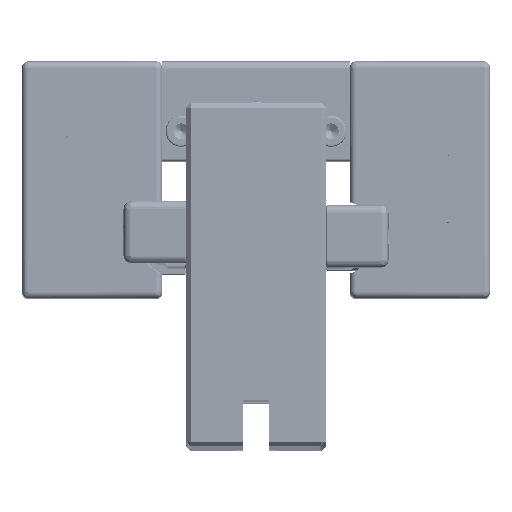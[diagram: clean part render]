
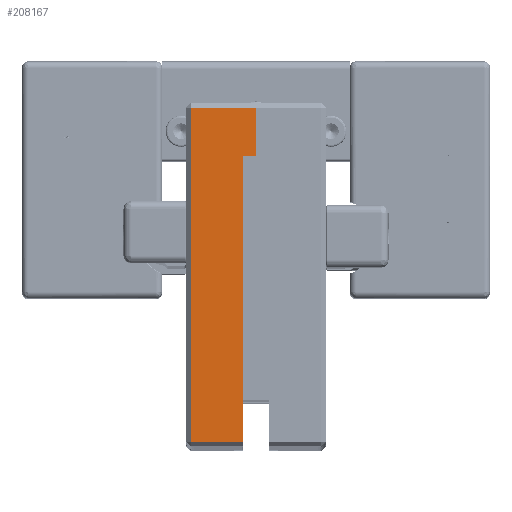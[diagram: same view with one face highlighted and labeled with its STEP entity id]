
A CAD part, top view. The second image highlights one B-rep face of the part: STEP entity #208167.
In plain terms, the highlighted planar face has unit normal (0, 0, 1) as drawn and (0, 1, 0) by its records, which use the part's own axes.
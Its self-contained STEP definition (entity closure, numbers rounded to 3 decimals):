
#1171 = ORIENTED_EDGE ( 'NONE', *, *, #38892, .T. ) ;
#1180 = LINE ( 'NONE', #135796, #32693 ) ;
#5007 = VERTEX_POINT ( 'NONE', #115652 ) ;
#7130 = CARTESIAN_POINT ( 'NONE',  ( 10.503, 143.797, 121.804 ) ) ;
#15753 = VERTEX_POINT ( 'NONE', #177424 ) ;
#20679 = DIRECTION ( 'NONE',  ( 0., 0., -1. ) ) ;
#20688 = DIRECTION ( 'NONE',  ( -1., 0., 0. ) ) ;
#21494 = LINE ( 'NONE', #109413, #24039 ) ;
#24039 = VECTOR ( 'NONE', #91171, 1000. ) ;
#24350 = ORIENTED_EDGE ( 'NONE', *, *, #220270, .T. ) ;
#25182 = VECTOR ( 'NONE', #43523, 1000. ) ;
#29651 = DIRECTION ( 'NONE',  ( 0., 0., 1. ) ) ;
#32693 = VECTOR ( 'NONE', #175474, 1000. ) ;
#37805 = CARTESIAN_POINT ( 'NONE',  ( 6.303, 143.797, 96.304 ) ) ;
#38892 = EDGE_CURVE ( 'NONE', #170490, #5007, #94807, .T. ) ;
#40082 = PLANE ( 'NONE',  #106281 ) ;
#43523 = DIRECTION ( 'NONE',  ( -1., 0., 0. ) ) ;
#69749 = EDGE_CURVE ( 'NONE', #5007, #192190, #146947, .T. ) ;
#74406 = DIRECTION ( 'NONE',  ( 0., -1., 0. ) ) ;
#77481 = DIRECTION ( 'NONE',  ( -1., 0., 0. ) ) ;
#77851 = LINE ( 'NONE', #7130, #25182 ) ;
#78873 = LINE ( 'NONE', #133467, #144854 ) ;
#80463 = EDGE_CURVE ( 'NONE', #15753, #134990, #77851, .T. ) ;
#91117 = ORIENTED_EDGE ( 'NONE', *, *, #80463, .T. ) ;
#91171 = DIRECTION ( 'NONE',  ( 0., 0., 1. ) ) ;
#91488 = CARTESIAN_POINT ( 'NONE',  ( 27.303, 143.797, 137.304 ) ) ;
#94807 = LINE ( 'NONE', #146111, #193052 ) ;
#106281 = AXIS2_PLACEMENT_3D ( 'NONE', #37805, #74406, #20688 ) ;
#109413 = CARTESIAN_POINT ( 'NONE',  ( 6.303, 143.797, 121.804 ) ) ;
#115652 = CARTESIAN_POINT ( 'NONE',  ( 27.303, 143.797, 30.304 ) ) ;
#130611 = EDGE_CURVE ( 'NONE', #192190, #15753, #78873, .T. ) ;
#133467 = CARTESIAN_POINT ( 'NONE',  ( 10.503, 143.797, 30.304 ) ) ;
#134990 = VERTEX_POINT ( 'NONE', #220350 ) ;
#135796 = CARTESIAN_POINT ( 'NONE',  ( 6.303, 143.797, 137.304 ) ) ;
#144854 = VECTOR ( 'NONE', #29651, 1000. ) ;
#146111 = CARTESIAN_POINT ( 'NONE',  ( 27.303, 143.797, 137.304 ) ) ;
#146947 = LINE ( 'NONE', #217490, #169176 ) ;
#149610 = CARTESIAN_POINT ( 'NONE',  ( 10.503, 143.797, 30.304 ) ) ;
#158730 = ORIENTED_EDGE ( 'NONE', *, *, #69749, .T. ) ;
#165097 = ORIENTED_EDGE ( 'NONE', *, *, #215008, .T. ) ;
#169176 = VECTOR ( 'NONE', #77481, 1000. ) ;
#170490 = VERTEX_POINT ( 'NONE', #91488 ) ;
#175474 = DIRECTION ( 'NONE',  ( 1., 0., 0. ) ) ;
#177424 = CARTESIAN_POINT ( 'NONE',  ( 10.503, 143.797, 121.804 ) ) ;
#178338 = EDGE_LOOP ( 'NONE', ( #24350, #165097, #1171, #158730, #187709, #91117 ) ) ;
#187709 = ORIENTED_EDGE ( 'NONE', *, *, #130611, .T. ) ;
#192190 = VERTEX_POINT ( 'NONE', #149610 ) ;
#193052 = VECTOR ( 'NONE', #20679, 1000. ) ;
#203217 = CARTESIAN_POINT ( 'NONE',  ( 6.303, 143.797, 137.304 ) ) ;
#205923 = VERTEX_POINT ( 'NONE', #203217 ) ;
#208167 = ADVANCED_FACE ( 'NONE', ( #211006 ), #40082, .F. ) ;
#211006 = FACE_OUTER_BOUND ( 'NONE', #178338, .T. ) ;
#215008 = EDGE_CURVE ( 'NONE', #205923, #170490, #1180, .T. ) ;
#217490 = CARTESIAN_POINT ( 'NONE',  ( 27.303, 143.797, 30.304 ) ) ;
#220270 = EDGE_CURVE ( 'NONE', #134990, #205923, #21494, .T. ) ;
#220350 = CARTESIAN_POINT ( 'NONE',  ( 6.303, 143.797, 121.804 ) ) ;
